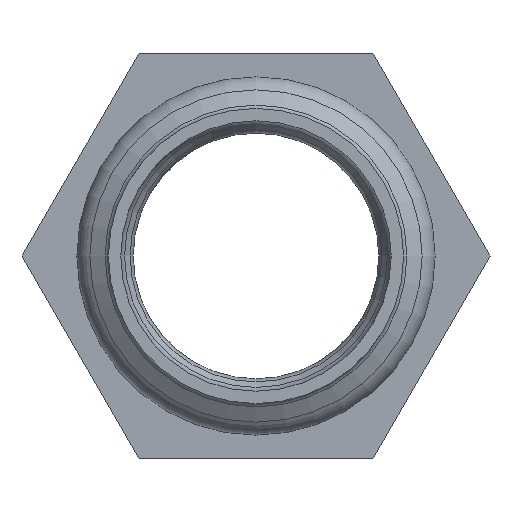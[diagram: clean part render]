
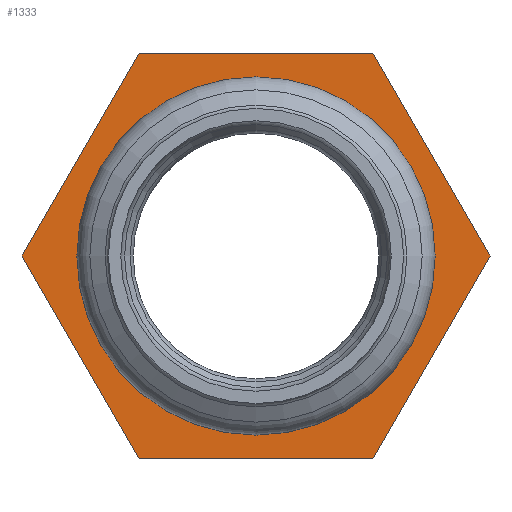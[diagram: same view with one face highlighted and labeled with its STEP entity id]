
A CAD part, left-side view. The second image highlights one B-rep face of the part: STEP entity #1333.
In plain terms, the highlighted planar face has unit normal (-1, 0, 0).
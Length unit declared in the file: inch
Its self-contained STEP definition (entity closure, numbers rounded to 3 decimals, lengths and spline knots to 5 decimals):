
#49=FACE_BOUND('',#206,.T.);
#55=PLANE('',#1568);
#144=FACE_OUTER_BOUND('',#205,.T.);
#205=EDGE_LOOP('',(#1174,#1175,#1176,#1177,#1178,#1179));
#206=EDGE_LOOP('',(#1180));
#240=LINE('',#2464,#283);
#241=LINE('',#2466,#284);
#242=LINE('',#2468,#285);
#243=LINE('',#2470,#286);
#244=LINE('',#2472,#287);
#245=LINE('',#2473,#288);
#283=VECTOR('',#2032,0.3937);
#284=VECTOR('',#2033,0.3937);
#285=VECTOR('',#2034,0.3937);
#286=VECTOR('',#2035,0.3937);
#287=VECTOR('',#2036,0.3937);
#288=VECTOR('',#2037,0.3937);
#456=CIRCLE('',#1563,1.375);
#594=VERTEX_POINT('',#2452);
#597=VERTEX_POINT('',#2462);
#598=VERTEX_POINT('',#2463);
#599=VERTEX_POINT('',#2465);
#600=VERTEX_POINT('',#2467);
#601=VERTEX_POINT('',#2469);
#602=VERTEX_POINT('',#2471);
#788=EDGE_CURVE('',#594,#594,#456,.T.);
#792=EDGE_CURVE('',#597,#598,#240,.T.);
#793=EDGE_CURVE('',#598,#599,#241,.T.);
#794=EDGE_CURVE('',#599,#600,#242,.T.);
#795=EDGE_CURVE('',#600,#601,#243,.T.);
#796=EDGE_CURVE('',#601,#602,#244,.T.);
#797=EDGE_CURVE('',#602,#597,#245,.T.);
#1174=ORIENTED_EDGE('',*,*,#792,.T.);
#1175=ORIENTED_EDGE('',*,*,#793,.T.);
#1176=ORIENTED_EDGE('',*,*,#794,.T.);
#1177=ORIENTED_EDGE('',*,*,#795,.T.);
#1178=ORIENTED_EDGE('',*,*,#796,.T.);
#1179=ORIENTED_EDGE('',*,*,#797,.T.);
#1180=ORIENTED_EDGE('',*,*,#788,.T.);
#1333=ADVANCED_FACE('',(#144,#49),#55,.F.);
#1563=AXIS2_PLACEMENT_3D('',#2453,#2019,#2020);
#1568=AXIS2_PLACEMENT_3D('',#2461,#2030,#2031);
#2019=DIRECTION('center_axis',(1.,0.,0.));
#2020=DIRECTION('ref_axis',(0.,1.,0.));
#2030=DIRECTION('center_axis',(1.,0.,0.));
#2031=DIRECTION('ref_axis',(0.,0.,-1.));
#2032=DIRECTION('',(0.,-0.5,-0.866));
#2033=DIRECTION('',(0.,-1.,0.));
#2034=DIRECTION('',(0.,-0.5,0.866));
#2035=DIRECTION('',(0.,0.5,0.866));
#2036=DIRECTION('',(0.,1.,0.));
#2037=DIRECTION('',(0.,0.5,-0.866));
#2452=CARTESIAN_POINT('',(-0.565,-1.375,0.));
#2453=CARTESIAN_POINT('Origin',(-0.565,0.,0.));
#2461=CARTESIAN_POINT('Origin',(-0.565,0.,0.));
#2462=CARTESIAN_POINT('',(-0.565,2.05537,0.));
#2463=CARTESIAN_POINT('',(-0.565,1.02768,-1.78));
#2464=CARTESIAN_POINT('',(-0.565,2.05537,0.));
#2465=CARTESIAN_POINT('',(-0.565,-1.02768,-1.78));
#2466=CARTESIAN_POINT('',(-0.565,1.02768,-1.78));
#2467=CARTESIAN_POINT('',(-0.565,-2.05537,0.));
#2468=CARTESIAN_POINT('',(-0.565,-1.02768,-1.78));
#2469=CARTESIAN_POINT('',(-0.565,-1.02768,1.78));
#2470=CARTESIAN_POINT('',(-0.565,-2.05537,0.));
#2471=CARTESIAN_POINT('',(-0.565,1.02768,1.78));
#2472=CARTESIAN_POINT('',(-0.565,-1.02768,1.78));
#2473=CARTESIAN_POINT('',(-0.565,1.02768,1.78));
